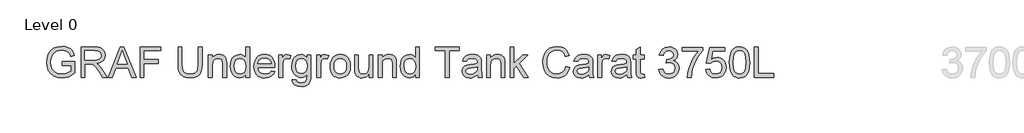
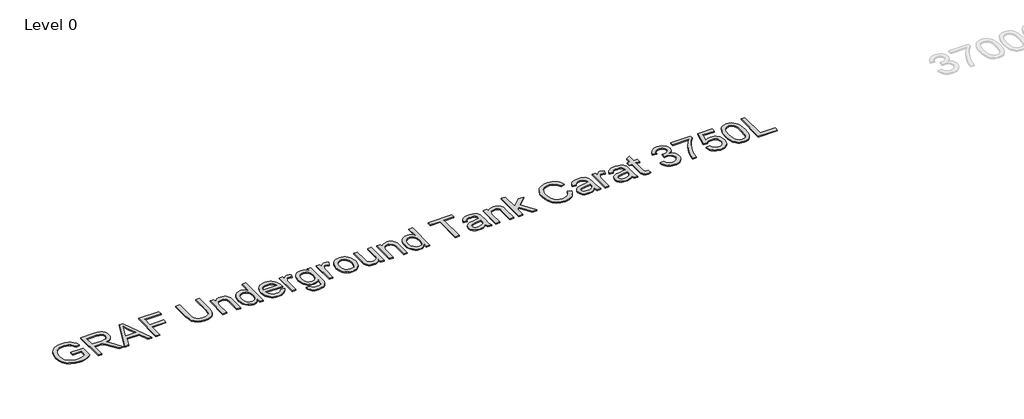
# One storey, part 15 of 19: 1 proxy.
"""IFC4 building model written with IfcOpenShell, lengths in millimetres."""

from ifc_helpers import new_model, si_unit, origin, origin_with_axes, place, context, project, spatial, polyline, outline, extrude, element, save

model = new_model("IFC4")

# Units and contexts
model_context = context("Model", 3, world=origin())
ifc_project = project(units=[si_unit("LENGTHUNIT", "METRE", prefix="MILLI")], contexts=[model_context])

# Site, building, storey
site = spatial("IfcSite", under=ifc_project)
building = spatial("IfcBuilding", under=site)
storey = spatial("IfcBuildingStorey", under=building, Name="Level 0", Elevation=0.0)

# Proxy
placement = place(None, origin())
element("IfcBuildingElementProxy", 1, Name="300mm Arial", ObjectType="300mm Arial", at=placement, inside=storey, context=model_context, shape_type="SweptSolid", body=[
    extrude(outline(polyline([(-14980.9940387, 5416.7454403), (-14980.9940387, 5454.4165566), (-14858.5629107, 5454.4165566), (-14858.5629107, 5341.7710897), (-14888.3153671, 5321.0777274), (-14919.0059225, 5306.2336889), (-14950.5610007, 5297.2941564), (-14982.9070251, 5294.3143123), (-15025.1674693, 5299.050793), (-15063.3628175, 5313.260235), (-15095.0926395, 5336.4459978), (-15117.9565055, 5368.1114405), (-15131.7796715, 5406.0952565), (-15136.3873935, 5448.2361391), (-15131.7980656, 5490.6805243), (-15118.0300819, 5530.1634594), (-15095.6536596, 5563.282036), (-15065.2390156, 5586.6333457), (-15028.1932987, 5600.4841028), (-14985.9236575, 5605.1010218), (-14954.8928112, 5602.4246803), (-14926.9889618, 5594.3956557), (-14903.4904994, 5581.5933623), (-14885.6758138, 5564.5972141), (-14872.4964413, 5542.5886738), (-14862.9039183, 5514.7492038), (-14897.6319786, 5504.9635427), (-14905.3850917, 5524.8199734), (-14914.8120678, 5539.8019677), (-14927.2832674, 5551.0959449), (-14944.169051, 5559.8883246), (-14964.3013932, 5565.5445103), (-14986.5122687, 5567.4299055), (-15012.5123287, 5565.3973575), (-15034.7415982, 5559.2997134), (-15053.1173039, 5549.9003284), (-15067.5566722, 5537.9625577), (-15086.9440533, 5508.9366683), (-15095.7732212, 5480.49939), (-15098.7162772, 5449.7812434), (-15095.175413, 5413.7563991), (-15084.5528204, 5384.1143073), (-15067.1703961, 5361.0665003), (-15043.3500369, 5344.8245102), (-15015.4737787, 5335.195199), (-14985.9236575, 5331.9854286), (-14959.831627, 5334.4042527), (-14934.3833899, 5341.6607251), (-14912.2828791, 5351.6579183), (-14896.234027, 5362.298905), (-14896.234027, 5416.7454403), (-14980.9940387, 5416.7454403)])), origin_with_axes(), (0.0, 0.0, 1.0), 10.0),
    extrude(outline(polyline([(-14797.3473467, 5299.0232018), (-14797.3473467, 5600.3921323), (-14667.4850024, 5600.3921323), (-14632.5821982, 5598.3595842), (-14607.1891434, 5592.2619402), (-14588.6294968, 5581.0047511), (-14574.2269167, 5563.4935682), (-14564.9838815, 5541.7793334), (-14561.9028698, 5517.912989), (-14567.0072325, 5488.2249119), (-14582.3203206, 5463.6136065), (-14593.9200997, 5453.5842236), (-14608.3019865, 5445.5689946), (-14645.4120827, 5435.5809984), (-14624.0013506, 5419.467767), (-14593.467145, 5380.6930048), (-14543.2144645, 5299.0232018), (-14586.9924219, 5299.0232018), (-14626.2086426, 5361.4895646), (-14654.5355562, 5402.8395009), (-14674.4379722, 5422.3740348), (-14692.3538253, 5429.5477337), (-14714.2060158, 5430.8721089), (-14759.6762304, 5430.8721089), (-14759.6762304, 5299.0232018), (-14797.3473467, 5299.0232018)]), holes=[polyline([(-14759.6762304, 5468.5432252), (-14675.3576771, 5468.5432252), (-14651.1418448, 5469.8767974), (-14632.3522719, 5473.8775141), (-14618.2072092, 5480.8120897), (-14607.9249074, 5490.9472387), (-14601.6617165, 5503.2069062), (-14599.5739861, 5516.5150374), (-14603.5563087, 5534.890743), (-14615.5032765, 5549.6979933), (-14636.058683, 5559.4652603), (-14665.8663217, 5562.721016), (-14759.6762304, 5562.721016), (-14759.6762304, 5468.5432252)])]), origin_with_axes(), (0.0, 0.0, 1.0), 10.0),
    extrude(outline(polyline([(-14531.0743586, 5299.0232018), (-14410.7769462, 5600.3921323), (-14378.6976362, 5600.3921323), (-14258.4002238, 5299.0232018), (-14298.2050557, 5299.0232018), (-14332.7123868, 5393.2009926), (-14456.835772, 5393.2009926), (-14491.2695268, 5299.0232018), (-14531.0743586, 5299.0232018)]), holes=[polyline([(-14443.003409, 5430.8721089), (-14346.4711735, 5430.8721089), (-14373.6208647, 5504.9635427), (-14394.7372912, 5562.721016), (-14413.499273, 5511.4382658), (-14443.003409, 5430.8721089)])]), origin_with_axes(), (0.0, 0.0, 1.0), 10.0),
    extrude(outline(polyline([(-14218.1539335, 5299.0232018), (-14218.1539335, 5600.3921323), (-14015.6716834, 5600.3921323), (-14015.6716834, 5562.721016), (-14180.4828172, 5562.721016), (-14180.4828172, 5473.2521147), (-14039.2161311, 5473.2521147), (-14039.2161311, 5435.5809984), (-14180.4828172, 5435.5809984), (-14180.4828172, 5299.0232018), (-14218.1539335, 5299.0232018)])), origin_with_axes(), (0.0, 0.0, 1.0), 10.0),
    extrude(outline(polyline([(-13648.3782994, 5600.3921323), (-13610.7071831, 5600.3921323), (-13610.7071831, 5426.5311014), (-13613.263963, 5385.8157615), (-13620.9343026, 5354.4630185), (-13635.2633063, 5330.2747773), (-13657.7960785, 5311.0529431), (-13688.5878015, 5298.49897), (-13727.6936576, 5294.3143123), (-13765.944188, 5297.956344), (-13796.5243789, 5308.8824393), (-13819.4434272, 5326.715519), (-13834.71053, 5351.0785041), (-13843.2913775, 5383.7556224), (-13846.15166, 5426.5311014), (-13846.15166, 5600.3921323), (-13808.4805437, 5600.3921323), (-13808.4805437, 5427.8554765), (-13806.6227396, 5394.0011359), (-13801.0493274, 5370.4290971), (-13790.9509666, 5354.1043335), (-13775.5183169, 5341.9918189), (-13755.3951718, 5334.4870262), (-13731.2253247, 5331.9854286), (-13692.9104149, 5336.9334414), (-13678.5676156, 5343.1184575), (-13667.4345868, 5351.7774799), (-13659.097461, 5363.954374), (-13653.1423712, 5380.6930048), (-13648.3782994, 5427.8554765), (-13648.3782994, 5600.3921323)])), origin_with_axes(), (0.0, 0.0, 1.0), 10.0),
    extrude(outline(polyline([(-13549.4916191, 5299.0232018), (-13549.4916191, 5520.3410101), (-13511.8205028, 5520.3410101), (-13511.8205028, 5489.4389225), (-13498.7331008, 5505.018725), (-13483.0153426, 5516.1471554), (-13464.6672281, 5522.8242136), (-13443.6887573, 5525.0498997), (-13425.1199136, 5523.2564749), (-13408.1145684, 5517.8762008), (-13393.9327174, 5509.5804618), (-13383.8343567, 5499.0406426), (-13372.5403794, 5471.3391284), (-13370.5538166, 5434.9188108), (-13370.5538166, 5299.0232018), (-13408.224933, 5299.0232018), (-13408.224933, 5429.8420393), (-13412.5659405, 5463.1721481), (-13418.5716141, 5473.0957649), (-13427.9066197, 5480.7936956), (-13439.8719816, 5485.7325114), (-13453.768724, 5487.3787834), (-13475.8324466, 5483.6815693), (-13494.6404136, 5472.5899271), (-13502.1567026, 5463.5354315), (-13507.5254805, 5451.1608009), (-13511.8205028, 5416.4511347), (-13511.8205028, 5299.0232018), (-13549.4916191, 5299.0232018)])), origin_with_axes(), (0.0, 0.0, 1.0), 10.0),
    extrude(outline(polyline([(-13182.1982351, 5299.0232018), (-13182.1982351, 5334.5606026), (-13193.4692197, 5316.9528506), (-13207.1222403, 5304.3758849), (-13223.1572968, 5296.8297054), (-13241.5743891, 5294.3143123), (-13265.9281772, 5297.956344), (-13288.2218261, 5308.8824393), (-13307.0941725, 5326.3292429), (-13321.1840529, 5349.5333998), (-13329.9580385, 5377.5568107), (-13332.8827003, 5409.4613768), (-13330.1879647, 5440.9704697), (-13322.1037579, 5469.426142), (-13308.6392769, 5493.209713), (-13289.8037187, 5510.7025018), (-13267.0226262, 5521.4630502), (-13241.7215419, 5525.0498997), (-13223.290654, 5522.4839227), (-13206.9934816, 5514.785992), (-13193.1795127, 5502.986177), (-13182.1982351, 5488.1145473), (-13182.1982351, 5600.3921323), (-13144.5271188, 5600.3921323), (-13144.5271188, 5299.0232018), (-13182.1982351, 5299.0232018)]), holes=[polyline([(-13295.211584, 5409.6085296), (-13290.962547, 5375.5334598), (-13278.2154359, 5351.2992333), (-13259.6925774, 5336.8138798), (-13238.1162984, 5331.9854286), (-13216.5492164, 5336.5931506), (-13198.4954075, 5350.4163165), (-13186.2725282, 5373.7124439), (-13182.1982351, 5406.73905), (-13186.3461046, 5442.8466678), (-13198.7897131, 5467.8810376), (-13217.3033745, 5482.5043469), (-13239.6614028, 5487.3787834), (-13261.458411, 5482.697485), (-13279.3190818, 5468.6535898), (-13291.2384585, 5444.529728), (-13295.211584, 5409.6085296)])]), origin_with_axes(), (0.0, 0.0, 1.0), 10.0),
    extrude(outline(polyline([(-12933.068548, 5364.9476554), (-12896.1331957, 5360.2387658), (-12909.4413268, 5332.4084929), (-12930.677315, 5311.6047661), (-12959.3629136, 5298.6369257), (-12995.019876, 5294.3143123), (-13018.3941782, 5296.1790141), (-13039.2208977, 5301.7731197), (-13057.5000343, 5311.0966291), (-13073.2315881, 5324.1495421), (-13085.8821303, 5340.5685754), (-13094.9182318, 5359.9904455), (-13100.3398927, 5382.4151523), (-13102.147113, 5407.842696), (-13100.3214986, 5434.1324631), (-13094.8446554, 5457.3044302), (-13085.7165834, 5477.3585975), (-13072.9372826, 5494.2949649), (-13057.2471155, 5507.7502488), (-13039.3864446, 5517.361166), (-13019.35527, 5523.1277162), (-12997.1535915, 5525.0498997), (-12975.6669838, 5523.1323148), (-12956.2359166, 5517.3795601), (-12938.8603901, 5507.7916356), (-12923.5404043, 5494.3685413), (-12911.0347157, 5477.4689621), (-12902.102081, 5457.451583), (-12896.7425002, 5434.3164041), (-12894.9559733, 5408.0634252), (-12895.1767025, 5397.9098821), (-13064.4759967, 5397.9098821), (-13057.9552883, 5369.7117272), (-13042.8077471, 5348.9815768), (-13020.9463596, 5336.2344656), (-12994.284112, 5331.9854286), (-12974.2345432, 5333.9535973), (-12957.3487597, 5339.8581033), (-12943.6267612, 5350.0668287), (-12933.068548, 5364.9476554)]), holes=[polyline([(-13064.4759967, 5435.5809984), (-12932.6270896, 5435.5809984), (-12937.7222552, 5455.4834144), (-12947.7102514, 5469.7204476), (-12969.6728065, 5482.9641994), (-12997.3007443, 5487.3787834), (-13022.6937991, 5483.8563132), (-13043.6906639, 5473.2889029), (-13058.2863821, 5456.8169866), (-13064.4759967, 5435.5809984)])]), origin_with_axes(), (0.0, 0.0, 1.0), 10.0),
    extrude(outline(polyline([(-12857.284857, 5299.0232018), (-12857.284857, 5520.3410101), (-12824.3226302, 5520.3410101), (-12824.3226302, 5487.5995125), (-12812.1457362, 5506.5822235), (-12800.9253353, 5517.7658362), (-12789.6681463, 5523.2288838), (-12777.3808876, 5525.0498997), (-12758.6189059, 5522.1436319), (-12739.5626185, 5513.4248286), (-12752.1441828, 5479.6532615), (-12765.3879346, 5485.4474029), (-12778.6316864, 5487.3787834), (-12789.8796784, 5485.5209793), (-12799.9320539, 5479.947567), (-12808.053049, 5471.081611), (-12813.5068996, 5459.3461753), (-12818.0870304, 5438.3033252), (-12819.6137407, 5415.3474887), (-12819.6137407, 5299.0232018), (-12857.284857, 5299.0232018)])), origin_with_axes(), (0.0, 0.0, 1.0), 10.0),
    extrude(outline(polyline([(-12725.4359499, 5280.1876437), (-12687.7648336, 5275.4787541), (-12683.6077671, 5263.7065303), (-12675.5511514, 5255.6131264), (-12659.7138315, 5249.3223443), (-12638.983681, 5247.2254169), (-12616.8739731, 5249.5982558), (-12600.4296479, 5256.7167724), (-12589.0253061, 5268.1211142), (-12582.0355482, 5283.3514288), (-12579.4603742, 5327.2765391), (-12591.9959532, 5314.915704), (-12605.9846661, 5306.0865361), (-12621.4265128, 5300.7890354), (-12638.3214935, 5299.0232018), (-12658.9757682, 5301.0787425), (-12677.1606351, 5307.2453644), (-12692.8760941, 5317.5230677), (-12706.1221452, 5331.9118522), (-12716.6320739, 5349.1747148), (-12724.1391659, 5368.0746523), (-12728.6434211, 5388.6116647), (-12730.1448394, 5410.785752), (-12727.4501038, 5441.2003959), (-12719.365897, 5469.1686246), (-12706.1773275, 5492.8694221), (-12688.1695038, 5510.4817726), (-12665.9586283, 5521.4078679), (-12640.1609034, 5525.0498997), (-12622.5439544, 5522.9897605), (-12606.5548832, 5516.809343), (-12592.1936898, 5506.5086471), (-12579.4603742, 5492.0876729), (-12579.4603742, 5520.3410101), (-12541.7892579, 5520.3410101), (-12541.7892579, 5329.2631018), (-12544.3644319, 5285.1448536), (-12552.0899538, 5256.091373), (-12565.398085, 5236.8235535), (-12584.7210868, 5222.0622884), (-12609.6358949, 5212.6812976), (-12639.719445, 5209.5543006), (-12674.7694021, 5213.9596875), (-12702.3697488, 5227.1758482), (-12712.7647144, 5237.0971657), (-12720.0740698, 5249.2395708), (-12724.297815, 5263.6030635), (-12725.4359499, 5280.1876437)]), holes=[polyline([(-12692.4737231, 5413.3609259), (-12688.4546123, 5378.8076095), (-12676.39728, 5355.0516297), (-12658.2698946, 5341.283646), (-12636.0406251, 5336.6943181), (-12613.9769024, 5341.2560549), (-12595.7575466, 5354.9412651), (-12583.5346673, 5378.3937423), (-12579.4603742, 5412.2572799), (-12583.654229, 5444.9160041), (-12596.2357932, 5468.4328606), (-12614.7218635, 5482.6423027), (-12636.6292363, 5487.3787834), (-12658.1411359, 5482.7158791), (-12676.1765508, 5468.7271662), (-12688.39943, 5445.5597976), (-12692.4737231, 5413.3609259)])]), origin_with_axes(), (0.0, 0.0, 1.0), 10.0),
    extrude(outline(polyline([(-12485.2825835, 5299.0232018), (-12485.2825835, 5520.3410101), (-12452.3203567, 5520.3410101), (-12452.3203567, 5487.5995125), (-12440.1434626, 5506.5822235), (-12428.9230618, 5517.7658362), (-12417.6658727, 5523.2288838), (-12405.3786141, 5525.0498997), (-12386.6166324, 5522.1436319), (-12367.560345, 5513.4248286), (-12380.1419092, 5479.6532615), (-12393.3856611, 5485.4474029), (-12406.6294129, 5487.3787834), (-12417.8774049, 5485.5209793), (-12427.9297804, 5479.947567), (-12436.0507755, 5471.081611), (-12441.504626, 5459.3461753), (-12446.0847569, 5438.3033252), (-12447.6114672, 5415.3474887), (-12447.6114672, 5299.0232018), (-12485.2825835, 5299.0232018)])), origin_with_axes(), (0.0, 0.0, 1.0), 10.0),
    extrude(outline(polyline([(-12353.4336764, 5409.682106), (-12351.3965298, 5438.3447119), (-12345.2850902, 5463.0433894), (-12335.0993575, 5483.7781383), (-12320.8393316, 5500.5489588), (-12306.4827368, 5511.2681204), (-12290.6362198, 5518.9246644), (-12273.2997808, 5523.5185909), (-12254.4734197, 5525.0498997), (-12233.6903862, 5523.1851978), (-12214.8985141, 5517.5910922), (-12198.0978032, 5508.2675829), (-12183.2882536, 5495.2146698), (-12171.2010308, 5478.8738115), (-12162.5673002, 5459.6864662), (-12157.3870619, 5437.6526339), (-12155.6603158, 5412.7723147), (-12158.7137363, 5374.7149223), (-12167.873998, 5345.7442152), (-12182.8743864, 5324.0483745), (-12203.448187, 5307.8155815), (-12227.8847485, 5297.6896296), (-12254.4734197, 5294.3143123), (-12275.5599558, 5296.1721164), (-12294.5265719, 5301.7455286), (-12311.373268, 5311.034549), (-12326.1000441, 5324.0391775), (-12338.0585082, 5340.538685), (-12346.6002683, 5360.3123422), (-12351.7253244, 5383.3601492), (-12353.4336764, 5409.682106)]), holes=[polyline([(-12315.7625601, 5409.7556824), (-12311.4031584, 5375.6622185), (-12298.3249535, 5351.3728097), (-12278.6432668, 5336.8322739), (-12254.4734197, 5331.9854286), (-12230.4139372, 5336.859865), (-12210.7690387, 5351.4831743), (-12197.6908337, 5376.0944798), (-12193.3314321, 5410.9329048), (-12197.7184249, 5444.0330873), (-12210.8794033, 5467.9914022), (-12230.5518929, 5482.5319381), (-12254.4734197, 5487.3787834), (-12278.6432668, 5482.5503322), (-12298.3249535, 5468.0649786), (-12311.4031584, 5443.8307522), (-12315.7625601, 5409.7556824)])]), origin_with_axes(), (0.0, 0.0, 1.0), 10.0),
    extrude(outline(polyline([(-11972.0136238, 5299.0232018), (-11972.0136238, 5337.0622001), (-11985.6436517, 5318.3599992), (-12001.5177598, 5305.0012842), (-12019.6359481, 5296.9860553), (-12039.9982165, 5294.3143123), (-12058.346331, 5296.1905105), (-12075.4252526, 5301.819105), (-12089.7542563, 5310.2803909), (-12099.8526171, 5320.6546631), (-12111.073018, 5348.3929656), (-12113.2803099, 5383.4153315), (-12113.2803099, 5520.3410101), (-12075.6091936, 5520.3410101), (-12075.6091936, 5401.1472437), (-12073.3283253, 5362.7403634), (-12067.8376865, 5349.9288729), (-12058.4291045, 5340.1891971), (-12045.7279786, 5334.0363707), (-12030.3597082, 5331.9854286), (-12014.1085211, 5334.082356), (-11998.9057976, 5340.3731381), (-11986.3702186, 5350.2783608), (-11978.1204649, 5363.21861), (-11973.5403341, 5380.9413251), (-11972.0136238, 5405.1939456), (-11972.0136238, 5520.3410101), (-11934.3425075, 5520.3410101), (-11934.3425075, 5299.0232018), (-11972.0136238, 5299.0232018)])), origin_with_axes(), (0.0, 0.0, 1.0), 10.0),
    extrude(outline(polyline([(-11882.5447226, 5299.0232018), (-11882.5447226, 5520.3410101), (-11844.8736063, 5520.3410101), (-11844.8736063, 5489.4389225), (-11831.7862043, 5505.018725), (-11816.068446, 5516.1471554), (-11797.7203315, 5522.8242136), (-11776.7418607, 5525.0498997), (-11758.173017, 5523.2564749), (-11741.1676718, 5517.8762008), (-11726.9858209, 5509.5804618), (-11716.8874601, 5499.0406426), (-11705.5934829, 5471.3391284), (-11703.6069201, 5434.9188108), (-11703.6069201, 5299.0232018), (-11741.2780364, 5299.0232018), (-11741.2780364, 5429.8420393), (-11745.619044, 5463.1721481), (-11751.6247175, 5473.0957649), (-11760.9597232, 5480.7936956), (-11772.925085, 5485.7325114), (-11786.8218274, 5487.3787834), (-11808.8855501, 5483.6815693), (-11827.6935171, 5472.5899271), (-11835.2098061, 5463.5354315), (-11840.578584, 5451.1608009), (-11844.8736063, 5416.4511347), (-11844.8736063, 5299.0232018), (-11882.5447226, 5299.0232018)])), origin_with_axes(), (0.0, 0.0, 1.0), 10.0),
    extrude(outline(polyline([(-11515.2513386, 5299.0232018), (-11515.2513386, 5334.5606026), (-11526.5223232, 5316.9528506), (-11540.1753437, 5304.3758849), (-11556.2104002, 5296.8297054), (-11574.6274926, 5294.3143123), (-11598.9812807, 5297.956344), (-11621.2749296, 5308.8824393), (-11640.1472759, 5326.3292429), (-11654.2371564, 5349.5333998), (-11663.0111419, 5377.5568107), (-11665.9358038, 5409.4613768), (-11663.2410682, 5440.9704697), (-11655.1568613, 5469.426142), (-11641.6923803, 5493.209713), (-11622.8568222, 5510.7025018), (-11600.0757296, 5521.4630502), (-11574.7746454, 5525.0498997), (-11556.3437574, 5522.4839227), (-11540.046585, 5514.785992), (-11526.2326161, 5502.986177), (-11515.2513386, 5488.1145473), (-11515.2513386, 5600.3921323), (-11477.5802223, 5600.3921323), (-11477.5802223, 5299.0232018), (-11515.2513386, 5299.0232018)]), holes=[polyline([(-11628.2646875, 5409.6085296), (-11624.0156504, 5375.5334598), (-11611.2685393, 5351.2992333), (-11592.7456809, 5336.8138798), (-11571.1694018, 5331.9854286), (-11549.6023199, 5336.5931506), (-11531.548511, 5350.4163165), (-11519.3256317, 5373.7124439), (-11515.2513386, 5406.73905), (-11519.3992081, 5442.8466678), (-11531.8428166, 5467.8810376), (-11550.356478, 5482.5043469), (-11572.7145062, 5487.3787834), (-11594.5115144, 5482.697485), (-11612.3721853, 5468.6535898), (-11624.2915619, 5444.529728), (-11628.2646875, 5409.6085296)])]), origin_with_axes(), (0.0, 0.0, 1.0), 10.0),
    extrude(outline(polyline([(-11223.3001872, 5299.0232018), (-11223.3001872, 5562.721016), (-11322.1868675, 5562.721016), (-11322.1868675, 5600.3921323), (-11086.7423906, 5600.3921323), (-11086.7423906, 5562.721016), (-11185.6290709, 5562.721016), (-11185.6290709, 5299.0232018), (-11223.3001872, 5299.0232018)])), origin_with_axes(), (0.0, 0.0, 1.0), 10.0),
    extrude(outline(polyline([(-10907.8045881, 5327.2765391), (-10925.8032148, 5311.8438894), (-10944.3352703, 5301.7455286), (-10963.823819, 5296.1721164), (-10984.6919251, 5294.3143123), (-11016.1734269, 5298.7840785), (-11039.3959778, 5312.1933772), (-11053.7157845, 5332.5556457), (-11058.4890534, 5357.8843211), (-11056.6864316, 5373.5009117), (-11051.2785663, 5387.6827627), (-11042.936842, 5399.8228685), (-11032.3326435, 5409.314224), (-11005.9555045, 5421.675059), (-10973.3611597, 5427.3404417), (-10934.8439148, 5433.3001301), (-10908.0253173, 5440.289888), (-10907.8045881, 5448.6775975), (-10910.3981562, 5465.4898046), (-10918.1788604, 5476.4894763), (-10935.5796788, 5484.6564566), (-10959.8231023, 5487.3787834), (-10982.263904, 5485.5669645), (-10997.935677, 5480.131508), (-11008.6226489, 5470.0791325), (-11016.1090475, 5454.4165566), (-11053.7801638, 5459.1254461), (-11047.2410614, 5479.7268379), (-11037.4829914, 5495.9136456), (-11023.5954461, 5508.2928748), (-11004.6679175, 5517.4715306), (-10981.5189429, 5523.1553074), (-10954.9670599, 5525.0498997), (-10929.5004288, 5523.3760366), (-10909.3129043, 5518.3544473), (-10894.0917868, 5510.8036694), (-10883.5243765, 5501.5422402), (-10876.5162244, 5490.0919131), (-10871.9728818, 5475.9744415), (-10870.1334718, 5443.0122147), (-10870.1334718, 5396.1440485), (-10868.2204855, 5330.6978416), (-10860.7156928, 5299.0232018), (-10898.3868091, 5299.0232018), (-10907.8045881, 5327.2765391)]), holes=[polyline([(-10907.8045881, 5402.6187717), (-10968.5786937, 5391.067277), (-11000.9890975, 5384.9604359), (-11015.6675891, 5375.027622), (-11020.8179371, 5360.5330714), (-11018.0128368, 5349.3310647), (-11009.5975362, 5340.1524089), (-10995.7559761, 5334.0271737), (-10976.6720976, 5331.9854286), (-10956.4385879, 5334.2387058), (-10938.5595229, 5340.9985375), (-10924.0649723, 5350.9589425), (-10913.9850057, 5362.8139398), (-10909.5152394, 5375.027622), (-10908.0253173, 5391.9501938), (-10907.8045881, 5402.6187717)])]), origin_with_axes(), (0.0, 0.0, 1.0), 10.0),
    extrude(outline(polyline([(-10818.3356869, 5299.0232018), (-10818.3356869, 5520.3410101), (-10780.6645706, 5520.3410101), (-10780.6645706, 5489.4389225), (-10767.5771686, 5505.018725), (-10751.8594104, 5516.1471554), (-10733.5112959, 5522.8242136), (-10712.5328251, 5525.0498997), (-10693.9639814, 5523.2564749), (-10676.9586362, 5517.8762008), (-10662.7767853, 5509.5804618), (-10652.6784245, 5499.0406426), (-10641.3844472, 5471.3391284), (-10639.3978845, 5434.9188108), (-10639.3978845, 5299.0232018), (-10677.0690008, 5299.0232018), (-10677.0690008, 5429.8420393), (-10681.4100083, 5463.1721481), (-10687.4156819, 5473.0957649), (-10696.7506875, 5480.7936956), (-10708.7160494, 5485.7325114), (-10722.6127918, 5487.3787834), (-10744.6765144, 5483.6815693), (-10763.4844814, 5472.5899271), (-10771.0007704, 5463.5354315), (-10776.3695483, 5451.1608009), (-10780.6645706, 5416.4511347), (-10780.6645706, 5299.0232018), (-10818.3356869, 5299.0232018)])), origin_with_axes(), (0.0, 0.0, 1.0), 10.0),
    extrude(outline(polyline([(-10587.6000995, 5299.0232018), (-10587.6000995, 5600.3921323), (-10549.9289832, 5600.3921323), (-10549.9289832, 5438.450478), (-10465.4632771, 5520.3410101), (-10413.3711866, 5520.3410101), (-10498.8669623, 5437.4204084), (-10408.6622971, 5299.0232018), (-10452.6609837, 5299.0232018), (-10525.8695007, 5411.2272104), (-10549.9289832, 5387.9034919), (-10549.9289832, 5299.0232018), (-10587.6000995, 5299.0232018)])), origin_with_axes(), (0.0, 0.0, 1.0), 10.0),
    extrude(outline(polyline([(-10041.3689131, 5406.1504388), (-10003.6977968, 5396.4383541), (-10011.1520057, 5373.0111688), (-10021.0802211, 5352.5408351), (-10033.4824428, 5335.0273528), (-10048.358671, 5320.4707221), (-10065.3732133, 5309.0272928), (-10084.1903773, 5300.8534147), (-10104.8101632, 5295.9490879), (-10127.2325708, 5294.3143123), (-10170.9277547, 5299.2623251), (-10205.6282239, 5314.1063636), (-10232.2260922, 5338.331393), (-10251.6134733, 5371.4223785), (-10263.4500765, 5410.3258995), (-10267.3956109, 5451.9885354), (-10262.9350417, 5495.9320397), (-10249.5533342, 5533.8790675), (-10227.949464, 5564.6248053), (-10198.822407, 5586.9644394), (-10164.2782877, 5600.5668762), (-10126.4232304, 5605.1010218), (-10085.1192794, 5599.233304), (-10067.1505432, 5591.8986567), (-10050.9706332, 5581.6301505), (-10036.8462638, 5568.6990984), (-10025.0441496, 5553.3768133), (-10008.4066863, 5515.5585442), (-10046.0778026, 5506.5822235), (-10059.1376135, 5534.0538115), (-10076.9798902, 5552.8985667), (-10099.8253621, 5563.7970708), (-10127.8947584, 5567.4299055), (-10160.2499798, 5563.4015977), (-10186.829454, 5551.3166741), (-10206.9985844, 5532.4443278), (-10220.1227746, 5508.0537515), (-10227.3240646, 5480.4809959), (-10229.7244946, 5452.0621118), (-10226.8826062, 5417.2604751), (-10218.356941, 5387.1677279), (-10203.8256022, 5362.9335014), (-10182.966693, 5345.707427), (-10157.9599144, 5335.4159282), (-10130.9849671, 5331.9854286), (-10099.5402536, 5336.6575299), (-10073.3378585, 5350.6738339), (-10053.5550042, 5373.8871878), (-10041.3689131, 5406.1504388)])), origin_with_axes(), (0.0, 0.0, 1.0), 10.0),
    extrude(outline(polyline([(-9815.3422153, 5327.2765391), (-9833.3408419, 5311.8438894), (-9851.8728974, 5301.7455286), (-9871.3614461, 5296.1721164), (-9892.2295523, 5294.3143123), (-9923.711054, 5298.7840785), (-9946.9336049, 5312.1933772), (-9961.2534116, 5332.5556457), (-9966.0266805, 5357.8843211), (-9964.2240587, 5373.5009117), (-9958.8161934, 5387.6827627), (-9950.4744691, 5399.8228685), (-9939.8702706, 5409.314224), (-9913.4931316, 5421.675059), (-9880.8987868, 5427.3404417), (-9842.3815419, 5433.3001301), (-9815.5629445, 5440.289888), (-9815.3422153, 5448.6775975), (-9817.9357833, 5465.4898046), (-9825.7164875, 5476.4894763), (-9843.1173059, 5484.6564566), (-9867.3607294, 5487.3787834), (-9889.8015311, 5485.5669645), (-9905.4733041, 5480.131508), (-9916.160276, 5470.0791325), (-9923.6466746, 5454.4165566), (-9961.3177909, 5459.1254461), (-9954.7786885, 5479.7268379), (-9945.0206186, 5495.9136456), (-9931.1330732, 5508.2928748), (-9912.2055446, 5517.4715306), (-9889.05657, 5523.1553074), (-9862.504687, 5525.0498997), (-9837.0380559, 5523.3760366), (-9816.8505314, 5518.3544473), (-9801.6294139, 5510.8036694), (-9791.0620036, 5501.5422402), (-9784.0538516, 5490.0919131), (-9779.5105089, 5475.9744415), (-9777.671099, 5443.0122147), (-9777.671099, 5396.1440485), (-9775.7581126, 5330.6978416), (-9768.2533199, 5299.0232018), (-9805.9244362, 5299.0232018), (-9815.3422153, 5327.2765391)]), holes=[polyline([(-9815.3422153, 5402.6187717), (-9876.1163209, 5391.067277), (-9908.5267246, 5384.9604359), (-9923.2052162, 5375.027622), (-9928.3555642, 5360.5330714), (-9925.550464, 5349.3310647), (-9917.1351633, 5340.1524089), (-9903.2936033, 5334.0271737), (-9884.2097248, 5331.9854286), (-9863.976215, 5334.2387058), (-9846.0971501, 5340.9985375), (-9831.6025994, 5350.9589425), (-9821.5226328, 5362.8139398), (-9817.0528665, 5375.027622), (-9815.5629445, 5391.9501938), (-9815.3422153, 5402.6187717)])]), origin_with_axes(), (0.0, 0.0, 1.0), 10.0),
    extrude(outline(polyline([(-9725.873314, 5299.0232018), (-9725.873314, 5520.3410101), (-9692.9110873, 5520.3410101), (-9692.9110873, 5487.5995125), (-9680.7341932, 5506.5822235), (-9669.5137924, 5517.7658362), (-9658.2566033, 5523.2288838), (-9645.9693447, 5525.0498997), (-9627.2073629, 5522.1436319), (-9608.1510756, 5513.4248286), (-9620.7326398, 5479.6532615), (-9633.9763916, 5485.4474029), (-9647.2201435, 5487.3787834), (-9658.4681355, 5485.5209793), (-9668.520511, 5479.947567), (-9676.641506, 5471.081611), (-9682.0953566, 5459.3461753), (-9686.6754874, 5438.3033252), (-9688.2021977, 5415.3474887), (-9688.2021977, 5299.0232018), (-9725.873314, 5299.0232018)])), origin_with_axes(), (0.0, 0.0, 1.0), 10.0),
    extrude(outline(polyline([(-9443.3399417, 5327.2765391), (-9461.3385684, 5311.8438894), (-9479.8706239, 5301.7455286), (-9499.3591726, 5296.1721164), (-9520.2272787, 5294.3143123), (-9551.7087805, 5298.7840785), (-9574.9313314, 5312.1933772), (-9589.2511381, 5332.5556457), (-9594.024407, 5357.8843211), (-9592.2217852, 5373.5009117), (-9586.8139199, 5387.6827627), (-9578.4721956, 5399.8228685), (-9567.8679971, 5409.314224), (-9541.4908581, 5421.675059), (-9508.8965133, 5427.3404417), (-9470.3792684, 5433.3001301), (-9443.5606709, 5440.289888), (-9443.3399417, 5448.6775975), (-9445.9335098, 5465.4898046), (-9453.714214, 5476.4894763), (-9471.1150324, 5484.6564566), (-9495.3584559, 5487.3787834), (-9517.7992576, 5485.5669645), (-9533.4710306, 5480.131508), (-9544.1580025, 5470.0791325), (-9551.6444011, 5454.4165566), (-9589.3155174, 5459.1254461), (-9582.776415, 5479.7268379), (-9573.018345, 5495.9136456), (-9559.1307997, 5508.2928748), (-9540.2032711, 5517.4715306), (-9517.0542965, 5523.1553074), (-9490.5024135, 5525.0498997), (-9465.0357824, 5523.3760366), (-9444.8482579, 5518.3544473), (-9429.6271404, 5510.8036694), (-9419.0597301, 5501.5422402), (-9412.051578, 5490.0919131), (-9407.5082354, 5475.9744415), (-9405.6688254, 5443.0122147), (-9405.6688254, 5396.1440485), (-9403.7558391, 5330.6978416), (-9396.2510464, 5299.0232018), (-9433.9221627, 5299.0232018), (-9443.3399417, 5327.2765391)]), holes=[polyline([(-9443.3399417, 5402.6187717), (-9504.1140473, 5391.067277), (-9536.5244511, 5384.9604359), (-9551.2029427, 5375.027622), (-9556.3532907, 5360.5330714), (-9553.5481904, 5349.3310647), (-9545.1328898, 5340.1524089), (-9531.2913297, 5334.0271737), (-9512.2074512, 5331.9854286), (-9491.9739415, 5334.2387058), (-9474.0948765, 5340.9985375), (-9459.6003259, 5350.9589425), (-9449.5203593, 5362.8139398), (-9445.050593, 5375.027622), (-9443.5606709, 5391.9501938), (-9443.3399417, 5402.6187717)])]), origin_with_axes(), (0.0, 0.0, 1.0), 10.0),
    extrude(outline(polyline([(-9273.8199184, 5330.4403242), (-9269.1110288, 5297.9195558), (-9297.2907897, 5294.3143123), (-9315.3721897, 5295.8778108), (-9328.8550648, 5300.5683062), (-9338.3832085, 5307.7971874), (-9344.6004142, 5316.9758432), (-9348.0217168, 5332.7395867), (-9349.162151, 5359.723731), (-9349.162151, 5482.6698938), (-9377.4154882, 5482.6698938), (-9377.4154882, 5520.3410101), (-9349.162151, 5520.3410101), (-9349.162151, 5574.1253578), (-9311.4910347, 5596.2718539), (-9311.4910347, 5520.3410101), (-9273.8199184, 5520.3410101), (-9273.8199184, 5482.6698938), (-9311.4910347, 5482.6698938), (-9311.4910347, 5360.827377), (-9309.5044719, 5341.4032077), (-9303.066537, 5334.5238144), (-9290.2274553, 5331.9854286), (-9273.8199184, 5330.4403242)])), origin_with_axes(), (0.0, 0.0, 1.0), 10.0),
    extrude(outline(polyline([(-9127.8443427, 5379.074324), (-9090.1732264, 5383.7832135), (-9081.7395316, 5360.1100071), (-9069.3878936, 5344.1255344), (-9052.5113071, 5335.020455), (-9030.5027668, 5331.9854286), (-9004.6774507, 5336.1608892), (-8984.7382466, 5348.6872712), (-8971.9911354, 5367.3756765), (-8967.7420984, 5390.0372074), (-8971.9543472, 5411.5491071), (-8984.5910938, 5428.9959107), (-9003.7209575, 5440.5566024), (-9027.412558, 5444.4101663), (-9053.8264852, 5440.289888), (-9049.6326305, 5477.9610043), (-9043.5993658, 5477.5195459), (-9021.0298054, 5480.2234785), (-9000.8514779, 5488.3352765), (-8986.6144447, 5502.057275), (-8981.868767, 5521.5918089), (-8985.3084636, 5537.8613901), (-8995.6275536, 5551.0591567), (-9011.372903, 5559.8055512), (-9031.0913779, 5562.721016), (-9050.8466411, 5559.77796), (-9066.9966607, 5550.9487921), (-9078.7872786, 5536.2335123), (-9085.4643368, 5515.6321206), (-9123.1354531, 5520.3410101), (-9112.043811, 5554.1677596), (-9092.3069419, 5579.4228585), (-9065.3044035, 5595.1498138), (-9032.4157531, 5600.3921323), (-9008.7333497, 5597.8077613), (-8986.9823267, 5590.0546482), (-8968.6434093, 5577.8225719), (-8955.1973223, 5561.801311), (-8946.9475686, 5543.3428319), (-8944.1976507, 5523.7991009), (-8946.8096128, 5505.5889421), (-8954.6454993, 5489.0710405), (-8967.5949456, 5474.9995542), (-8985.5475869, 5464.1286413), (-8961.966351, 5454.6004976), (-8944.4919563, 5438.3769016), (-8933.6762256, 5416.3407701), (-8930.0709821, 5389.3750198), (-8931.8736038, 5370.2635502), (-8937.2814692, 5352.6603967), (-8946.2945781, 5336.5655594), (-8958.9129305, 5321.9790383), (-8974.2857994, 5309.8757207), (-8991.5624576, 5301.2304938), (-9010.7429051, 5296.0433577), (-9031.8271419, 5294.3143123), (-9050.8834293, 5295.7904388), (-9068.2474595, 5300.2188183), (-9083.9192325, 5307.5994508), (-9097.8987483, 5317.9323364), (-9109.6203883, 5330.6104696), (-9118.5185341, 5345.0268453), (-9124.5931855, 5361.1814634), (-9127.8443427, 5379.074324)])), origin_with_axes(), (0.0, 0.0, 1.0), 10.0),
    extrude(outline(polyline([(-8897.1087553, 5558.0121264), (-8897.1087553, 5595.6832427), (-8699.3353947, 5595.6832427), (-8699.3353947, 5565.2226135), (-8727.5243526, 5529.547257), (-8755.437399, 5484.17821), (-8780.0579015, 5433.2541448), (-8798.3692278, 5380.9137339), (-8807.3455485, 5341.7526956), (-8812.3487436, 5299.0232018), (-8850.0198599, 5299.0232018), (-8845.9455668, 5337.8531464), (-8835.0470627, 5384.0039427), (-8817.6186532, 5432.923051), (-8793.9546439, 5480.0579316), (-8766.326706, 5522.6678637), (-8737.006511, 5558.0121264), (-8897.1087553, 5558.0121264)])), origin_with_axes(), (0.0, 0.0, 1.0), 10.0),
    extrude(outline(polyline([(-8666.3731679, 5379.074324), (-8628.7020516, 5383.7832135), (-8621.7858701, 5361.1676679), (-8609.7193407, 5344.971663), (-8592.5576456, 5335.2319872), (-8570.3559672, 5331.9854286), (-8543.3534287, 5336.5011801), (-8523.119919, 5350.0484346), (-8510.4831725, 5371.0636935), (-8506.2709236, 5397.9834585), (-8510.216458, 5423.330528), (-8522.0530612, 5442.7179091), (-8541.8727037, 5455.0235619), (-8569.767356, 5459.1254461), (-8588.0418941, 5457.4883712), (-8602.8399474, 5452.5771466), (-8623.9931621, 5435.5809984), (-8661.6642784, 5440.289888), (-8628.7020516, 5595.6832427), (-8482.7264759, 5595.6832427), (-8482.7264759, 5558.0121264), (-8598.2414224, 5558.0121264), (-8614.3546538, 5475.0179483), (-8587.4440859, 5491.3519089), (-8559.2459309, 5496.7965624), (-8540.9001157, 5495.1089038), (-8524.048821, 5490.0459278), (-8508.692047, 5481.6076346), (-8494.8297936, 5469.794024), (-8483.3541746, 5455.3270645), (-8475.1573039, 5438.9287246), (-8470.2391815, 5420.5990042), (-8468.5998073, 5400.3379033), (-8474.5043133, 5362.666787), (-8481.8849459, 5345.8729739), (-8492.2178314, 5330.4403242), (-8507.8712103, 5314.635194), (-8526.1365514, 5303.3458153), (-8547.0138546, 5296.572188), (-8570.50312, 5294.3143123), (-8607.5028516, 5300.1176508), (-8623.1815224, 5307.3718238), (-8636.9793965, 5317.5276662), (-8648.459614, 5330.07934), (-8657.1853151, 5344.5210076), (-8666.3731679, 5379.074324)])), origin_with_axes(), (0.0, 0.0, 1.0), 10.0),
    extrude(outline(polyline([(-8435.6375806, 5447.2796459), (-8432.8692685, 5495.5181725), (-8424.5643325, 5533.9894321), (-8410.8055459, 5563.282036), (-8391.6756821, 5583.9845953), (-8367.0367855, 5596.290248), (-8336.7509002, 5600.3921323), (-8313.5375464, 5597.9641111), (-8292.7522136, 5590.6800476), (-8275.3697894, 5578.8250503), (-8262.3651608, 5562.6842278), (-8252.5427116, 5542.3955357), (-8244.7068251, 5518.0969299), (-8239.5748712, 5487.2408276), (-8237.8642199, 5447.2796459), (-8240.6049408, 5399.3170308), (-8248.8271034, 5360.9377416), (-8262.5031166, 5331.6175466), (-8281.6053892, 5310.8322139), (-8306.2994681, 5298.4437877), (-8336.7509002, 5294.3143123), (-8357.4994448, 5296.107737), (-8375.8935445, 5301.4880112), (-8391.9331995, 5310.4551348), (-8405.6184097, 5323.0091079), (-8418.751797, 5345.7028285), (-8428.1327878, 5373.9791583), (-8433.7613824, 5407.8380975), (-8435.6375806, 5447.2796459)]), holes=[polyline([(-8397.9664642, 5447.3532223), (-8393.5518803, 5388.0966299), (-8388.0336504, 5367.8286312), (-8380.3081285, 5353.8008309), (-8360.5896535, 5337.4392792), (-8336.7509002, 5331.9854286), (-8312.912147, 5337.4576733), (-8293.193672, 5353.8744073), (-8285.4681501, 5367.9252003), (-8279.9499202, 5388.1886004), (-8275.5353362, 5447.3532223), (-8279.8027674, 5505.2762424), (-8285.1370563, 5525.4775625), (-8292.6050608, 5539.8387559), (-8312.2867476, 5557.0004509), (-8337.1923586, 5562.721016), (-8360.7735945, 5557.6810326), (-8379.7195173, 5542.5610826), (-8387.7025566, 5526.9260978), (-8393.4047275, 5505.8464595), (-8397.9664642, 5447.3532223)])]), origin_with_axes(), (0.0, 0.0, 1.0), 10.0),
    extrude(outline(polyline([(-8190.7753246, 5299.0232018), (-8190.7753246, 5600.3921323), (-8153.1042083, 5600.3921323), (-8153.1042083, 5336.6943181), (-8002.419743, 5336.6943181), (-8002.419743, 5299.0232018), (-8190.7753246, 5299.0232018)])), origin_with_axes(), (0.0, 0.0, 1.0), 10.0),
])

save(model, "model.ifc")
